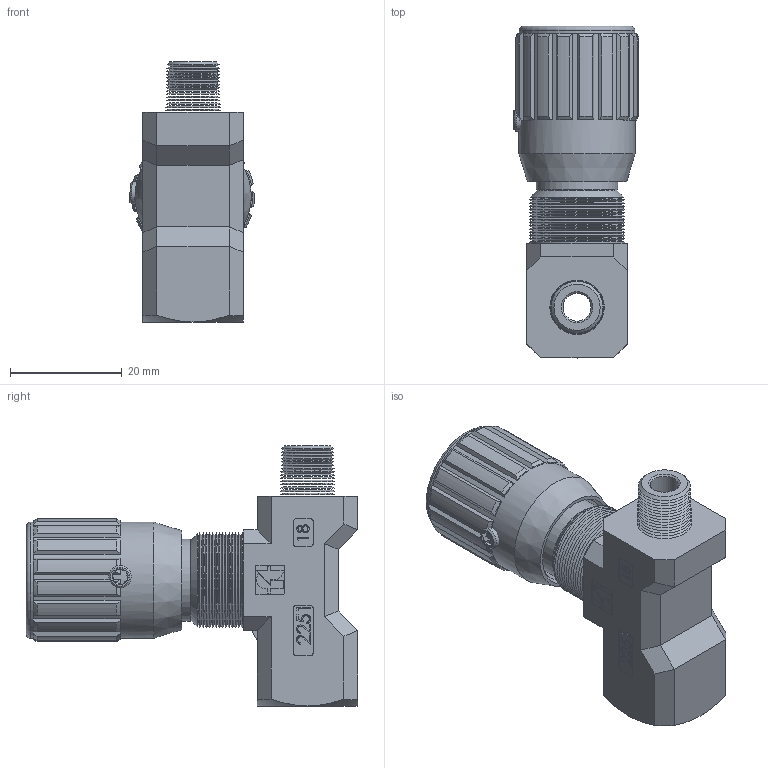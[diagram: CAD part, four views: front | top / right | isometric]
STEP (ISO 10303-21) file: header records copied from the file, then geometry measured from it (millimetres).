
FILE_DESCRIPTION (( 'STEP AP214' ), '1' );
FILE_NAME ('FT2251-2-18 - MF.STEP', '2015-04-16T13:03:55', ( 'cperuzzotti' ), ( 'Hewlett-Packard Company' ), 'SwSTEP 2.0', 'SolidWorks 2014', '' );
FILE_SCHEMA (( 'AUTOMOTIVE_DESIGN' ));
Length unit declared in the file: millimetre
Products named in the file (1): FT2251-2-18 - MF
Bounding box: 22.37 x 59.3 x 46.5 mm (x, y, z)
Surface area: 8412.1 mm2 (no closed solid volume)
Topology: 0 solids, 19 shells, 479 faces, 1645 edges, 1148 vertices
Faces by surface type: plane 271, cone 109, cylinder 61, bspline 37, torus 1
Full cylindrical faces by diameter (mm): 2.5 x1, 4 x2, 5 x1, 8.7 x1, 14.1 x1, 14.6 x1, 17 x1, 20.7 x1, 20.8 x1
Entity records: 25266 total; most frequent: CARTESIAN_POINT 6629, ORIENTED_EDGE 2551, DIRECTION 2543, EDGE_CURVE 1553, VERTEX_POINT 1138, LINE 1039, VECTOR 1039, AXIS2_PLACEMENT_3D 752
